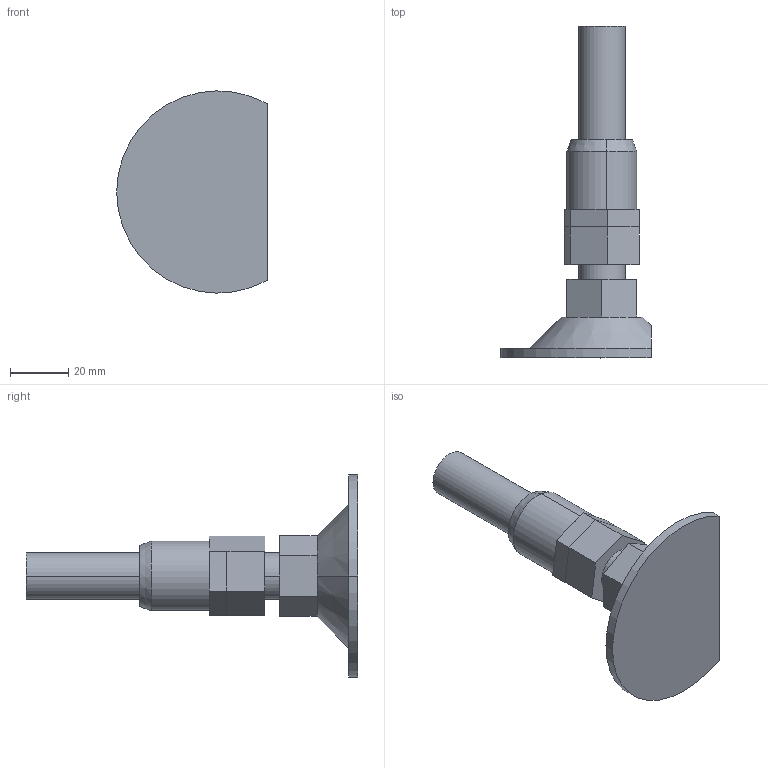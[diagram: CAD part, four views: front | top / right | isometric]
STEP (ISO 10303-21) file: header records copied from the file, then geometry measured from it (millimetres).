
FILE_DESCRIPTION (( 'STEP AP214' ), '1' );
FILE_NAME ('JB-405.step', '2024-02-15T05:11:32', ( 'catia' ), ( 'HP Inc.' ), 'SwSTEP 2.0', 'SolidWorks 2021', '' );
FILE_SCHEMA (( 'AUTOMOTIVE_DESIGN' ));
Length unit declared in the file: millimetre
Products named in the file (4): JB-405_轡寶M16; JB-406; JB-405
Assembly tree (3 placements, depth 2):
  JB-405
    JB-405
    JB-406
    JB-405_轡寶M16
Bounding box: 51.75 x 114 x 69.5 mm (x, y, z)
Volume: 57773.6 mm3; surface area: 19449.7 mm2
Topology: 3 solids, 3 shells, 48 faces, 112 edges, 72 vertices
Faces by surface type: plane 34, cylinder 10, cone 4
Entity records: 1552 total; most frequent: CARTESIAN_POINT 268, DIRECTION 250, ORIENTED_EDGE 224, EDGE_CURVE 112, AXIS2_PLACEMENT_3D 86, VECTOR 78, LINE 78, VERTEX_POINT 72
